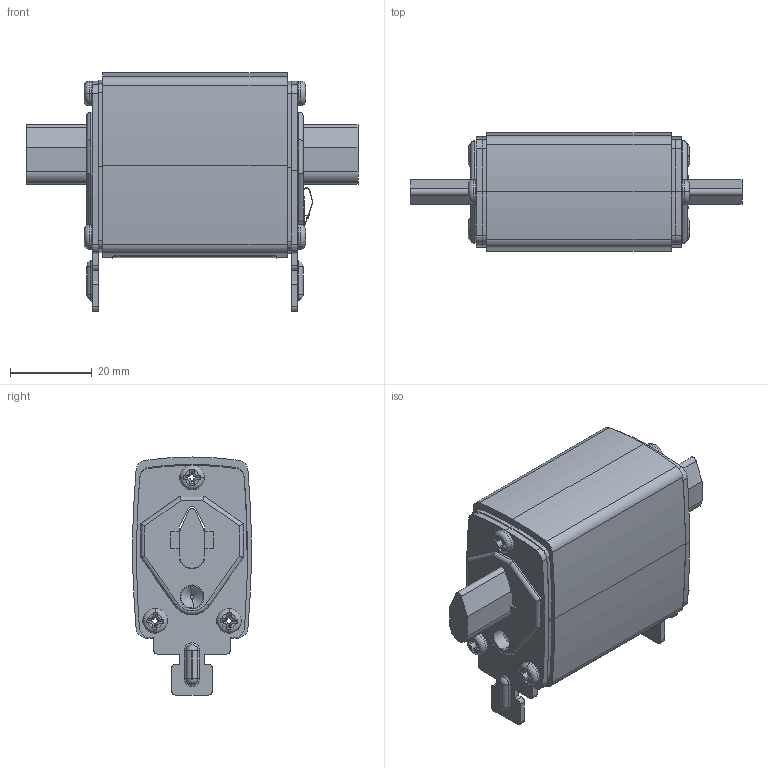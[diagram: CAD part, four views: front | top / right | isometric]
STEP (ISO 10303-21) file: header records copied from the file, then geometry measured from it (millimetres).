
FILE_DESCRIPTION (( 'STEP AP203' ), '1' );
FILE_NAME ('Âñòàâêà ïëàâêàÿ ÏÏÍ-33 (00).STEP', '2014-06-26T11:03:30', ( 'admin' ), ( 'Microsoft' ), 'SwSTEP 2.0', 'SolidWorks 2007', '' );
FILE_SCHEMA (( 'CONFIG_CONTROL_DESIGN' ));
Length unit declared in the file: millimetre
Products named in the file (1): Âñòàâêà ïëàâêàÿ ÏÏÍ-33 (00)
Bounding box: 81 x 29 x 58.08 mm (x, y, z)
Surface area: 16466.6 mm2 (no closed solid volume)
Topology: 0 solids, 18 shells, 419 faces, 1274 edges, 863 vertices
Faces by surface type: plane 207, cylinder 167, torus 38, cone 4, bspline 3
Entity records: 14495 total; most frequent: CARTESIAN_POINT 3215, DIRECTION 2366, ORIENTED_EDGE 2174, EDGE_CURVE 1274, VERTEX_POINT 863, AXIS2_PLACEMENT_3D 835, VECTOR 696, LINE 696
